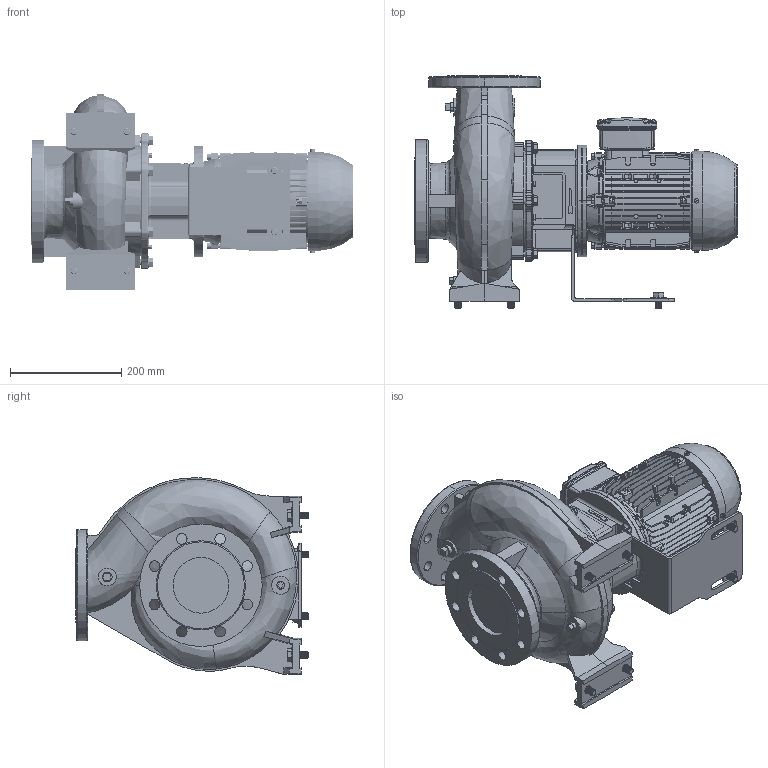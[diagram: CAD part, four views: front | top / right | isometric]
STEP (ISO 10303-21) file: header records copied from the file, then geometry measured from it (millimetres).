
FILE_DESCRIPTION (( 'STEP AP214' ), '1' );
FILE_NAME ('GSD4 80-160_1.5_(90SL)_W21.STEP', '2026-07-01T02:07:43', ( '' ), ( '' ), 'SwSTEP 2.0', 'SolidWorks 2024', '' );
FILE_SCHEMA (( 'AUTOMOTIVE_DESIGN' ));
Length unit declared in the file: millimetre
Products named in the file (7): Parametric bolt_SFT-A295B; Parametric Flat Washer_M12; GSD4 80-160_1.5_(90SL)_W21; 90S_L ALIE3_W21T_B5; CGSD1-4173; 80-160-90S_L_ﾃﾞﾌｫﾙﾄ; Parametric bolt_SFT-A299B
Assembly tree (15 placements, depth 2):
  GSD4 80-160_1.5_(90SL)_W21
    80-160-90S_L_ﾃﾞﾌｫﾙﾄ
    90S_L ALIE3_W21T_B5
    CGSD1-4173
    Parametric bolt_SFT-A299B  x4
    Parametric bolt_SFT-A295B  x2
    Parametric Flat Washer_M12  x6
Bounding box: 579 x 418 x 353.31 mm (x, y, z)
Volume: 18353918.8 mm3; surface area: 1314801.6 mm2
Topology: 18 solids, 22 shells, 3711 faces, 9765 edges, 6277 vertices
Faces by surface type: plane 1912, cylinder 1031, torus 302, bspline 261, cone 183, sphere 22
Entity records: 191182 total; most frequent: CARTESIAN_POINT 107982, ORIENTED_EDGE 18172, DIRECTION 16002, EDGE_CURVE 9086, VERTEX_POINT 5864, AXIS2_PLACEMENT_3D 5380, LINE 5242, VECTOR 5242
